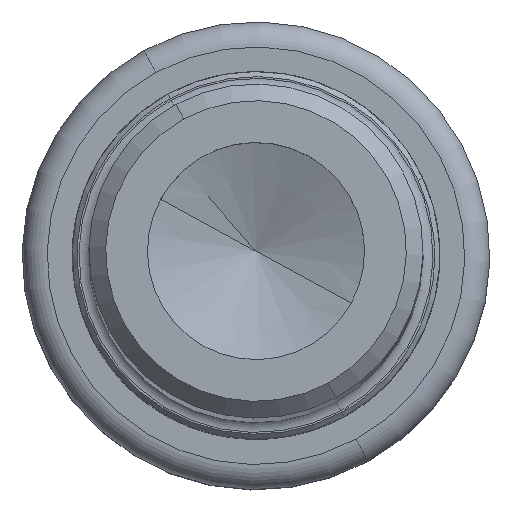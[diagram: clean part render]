
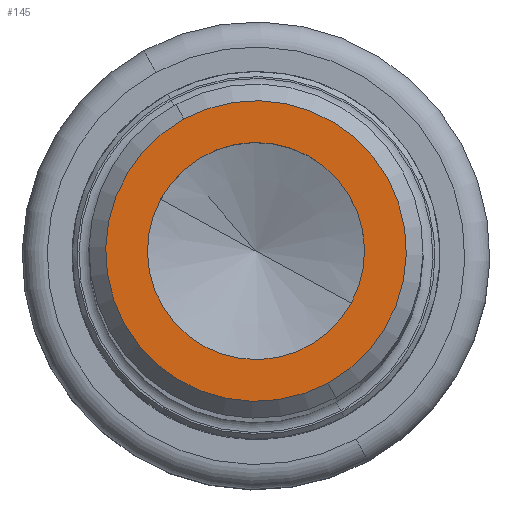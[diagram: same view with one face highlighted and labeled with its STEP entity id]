
A CAD part, top view. The second image highlights one B-rep face of the part: STEP entity #145.
In plain terms, the highlighted planar face has unit normal (0, 0, 1).
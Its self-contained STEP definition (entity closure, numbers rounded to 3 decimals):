
#89=AXIS2_PLACEMENT_3D('Circle Axis2P3D',#87,#88,$) ;
#108=AXIS2_PLACEMENT_3D('Circle Axis2P3D',#106,#107,$) ;
#121=AXIS2_PLACEMENT_3D('Plane Axis2P3D',#118,#119,#120) ;
#125=AXIS2_PLACEMENT_3D('Circle Axis2P3D',#123,#124,$) ;
#134=AXIS2_PLACEMENT_3D('Circle Axis2P3D',#132,#133,$) ;
#84=CARTESIAN_POINT('Vertex',(-5.704,3.116,0.)) ;
#87=CARTESIAN_POINT('Axis2P3D Location',(0.,0.,0.)) ;
#91=CARTESIAN_POINT('Vertex',(5.704,-3.116,0.)) ;
#106=CARTESIAN_POINT('Axis2P3D Location',(0.,0.,0.)) ;
#118=CARTESIAN_POINT('Axis2P3D Location',(0.,0.,0.)) ;
#123=CARTESIAN_POINT('Axis2P3D Location',(0.,0.,0.)) ;
#127=CARTESIAN_POINT('Vertex',(4.315,-7.898,0.)) ;
#129=CARTESIAN_POINT('Vertex',(-4.315,7.898,0.)) ;
#132=CARTESIAN_POINT('Axis2P3D Location',(0.,0.,0.)) ;
#88=DIRECTION('Axis2P3D Direction',(0.,0.,-1.)) ;
#107=DIRECTION('Axis2P3D Direction',(0.,0.,-1.)) ;
#119=DIRECTION('Axis2P3D Direction',(0.,0.,-1.)) ;
#120=DIRECTION('Axis2P3D XDirection',(1.,0.,0.)) ;
#124=DIRECTION('Axis2P3D Direction',(0.,0.,-1.)) ;
#133=DIRECTION('Axis2P3D Direction',(0.,0.,-1.)) ;
#138=ORIENTED_EDGE('',*,*,#131,.T.) ;
#139=ORIENTED_EDGE('',*,*,#136,.T.) ;
#142=ORIENTED_EDGE('',*,*,#93,.T.) ;
#143=ORIENTED_EDGE('',*,*,#110,.T.) ;
#144=FACE_BOUND('',#141,.T.) ;
#145=ADVANCED_FACE('NOCUT',(#140,#144),#122,.F.) ;
#90=CIRCLE('generated circle',#89,6.5) ;
#109=CIRCLE('generated circle',#108,6.5) ;
#126=CIRCLE('generated circle',#125,9.) ;
#135=CIRCLE('generated circle',#134,9.) ;
#93=EDGE_CURVE('',#92,#85,#90,.T.) ;
#110=EDGE_CURVE('',#85,#92,#109,.T.) ;
#131=EDGE_CURVE('',#128,#130,#126,.F.) ;
#136=EDGE_CURVE('',#130,#128,#135,.F.) ;
#137=EDGE_LOOP('',(#138,#139)) ;
#141=EDGE_LOOP('',(#142,#143)) ;
#140=FACE_OUTER_BOUND('',#137,.T.) ;
#122=PLANE('',#121) ;
#85=VERTEX_POINT('',#84) ;
#92=VERTEX_POINT('',#91) ;
#128=VERTEX_POINT('',#127) ;
#130=VERTEX_POINT('',#129) ;
